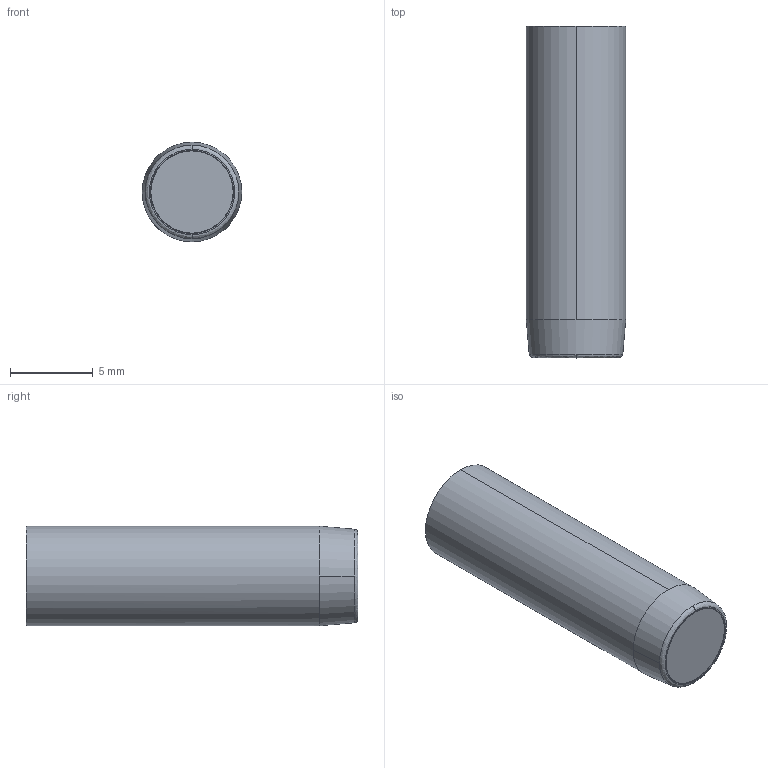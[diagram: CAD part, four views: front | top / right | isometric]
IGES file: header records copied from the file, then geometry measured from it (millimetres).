
Start section: START RECORD GO HERE.
Global section: file name: fa0632sf.igs; native system: DASSAULT SYSTEMES CATIA V5 R20 - www.3ds.com; preprocessor: CATIA Version 5 Release 20 ; author: Utente; organization: NB04-ASUS; date: 20201108.084151; units: millimetre
Bounding box: 6 x 20 x 6 mm (x, y, z)
Surface area: 1126.6 mm2 (no closed solid volume)
Topology: 0 solids, 0 shells, 412 faces, 2015 edges, 2013 vertices
Faces by surface type: revolution 172, plane 140, bspline 100
